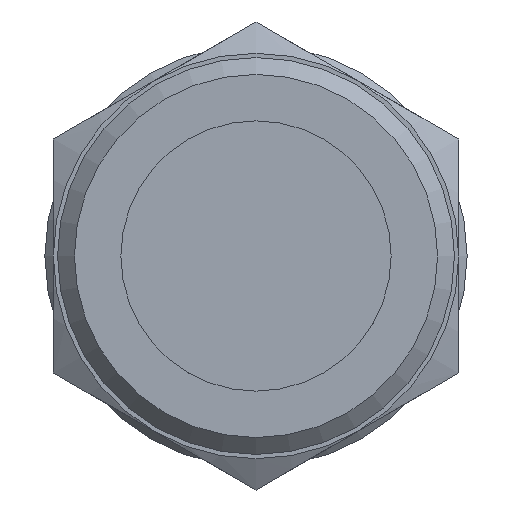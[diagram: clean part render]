
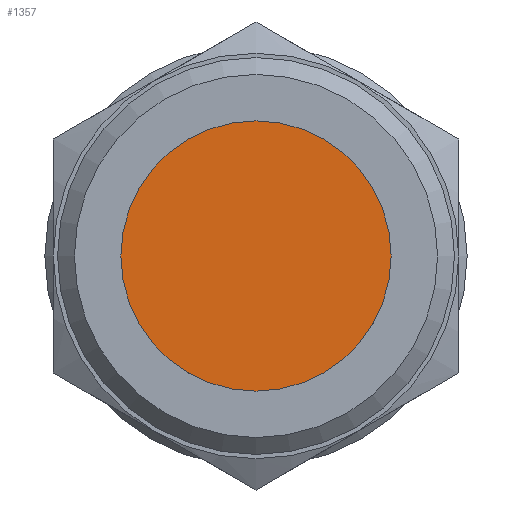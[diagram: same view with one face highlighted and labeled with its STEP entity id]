
A CAD part, left-side view. The second image highlights one B-rep face of the part: STEP entity #1357.
In plain terms, the highlighted planar face has unit normal (-1, 0, 0).
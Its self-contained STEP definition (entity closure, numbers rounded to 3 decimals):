
#221=PLANE($,#1461);
#285=FACE_OUTER_BOUND($,#378,.T.);
#378=EDGE_LOOP($,(#922));
#501=CIRCLE($,#1460,8.);
#585=VERTEX_POINT($,#2061);
#717=EDGE_CURVE($,#585,#585,#501,.T.);
#922=ORIENTED_EDGE($,*,*,#717,.T.);
#1357=ADVANCED_FACE($,(#285),#221,.T.);
#1460=AXIS2_PLACEMENT_3D($,#2062,#1647,#1648);
#1461=AXIS2_PLACEMENT_3D($,#2063,#1649,#1650);
#1647=DIRECTION('center_axis',(-1.,0.,0.));
#1648=DIRECTION('ref_axis',(0.,-1.,0.));
#1649=DIRECTION('center_axis',(-1.,0.,0.));
#1650=DIRECTION('ref_axis',(0.,-1.,0.));
#2061=CARTESIAN_POINT('',(-20.,-8.,0.));
#2062=CARTESIAN_POINT('Origin',(-20.,0.,0.));
#2063=CARTESIAN_POINT('Origin',(-20.,0.,0.));
